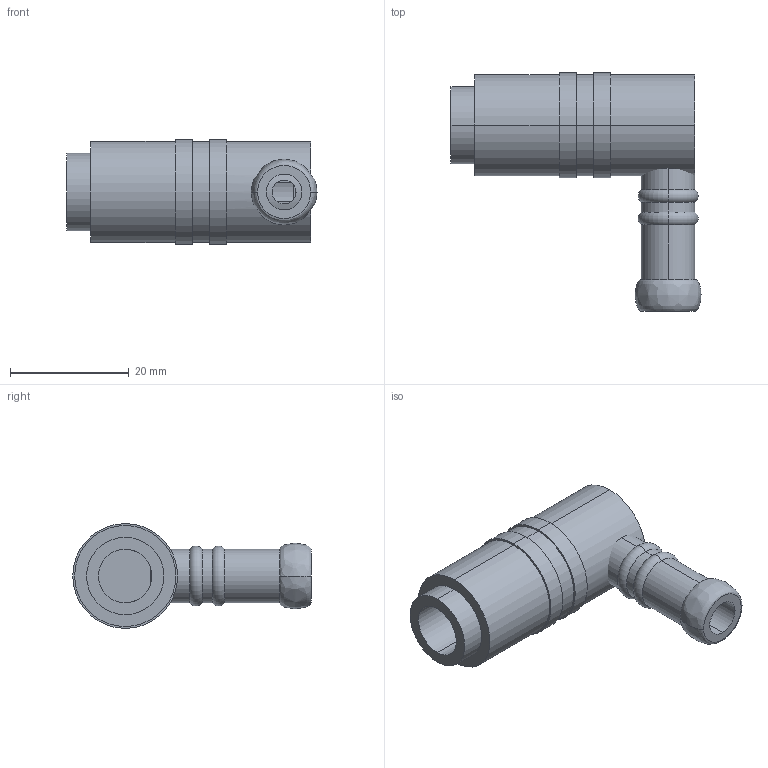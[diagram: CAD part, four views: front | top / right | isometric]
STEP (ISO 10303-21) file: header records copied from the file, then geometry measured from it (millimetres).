
FILE_DESCRIPTION (( 'STEP AP214' ), '1' );
FILE_NAME ('BR801-09-90.STEP', '2020-06-22T14:47:05', ( '' ), ( '' ), 'SwSTEP 2.0', 'SolidWorks 2018', '' );
FILE_SCHEMA (( 'AUTOMOTIVE_DESIGN' ));
Length unit declared in the file: millimetre
Products named in the file (1): BR801-09-90
Bounding box: 42.03 x 40.07 x 17.62 mm (x, y, z)
Volume: 7585.3 mm3; surface area: 5059.7 mm2
Topology: 2 solids, 2 shells, 43 faces, 94 edges, 60 vertices
Faces by surface type: cylinder 24, plane 13, torus 4, bspline 2
Entity records: 1372 total; most frequent: CARTESIAN_POINT 341, DIRECTION 229, ORIENTED_EDGE 188, AXIS2_PLACEMENT_3D 100, EDGE_CURVE 94, VERTEX_POINT 60, CIRCLE 58, EDGE_LOOP 52
